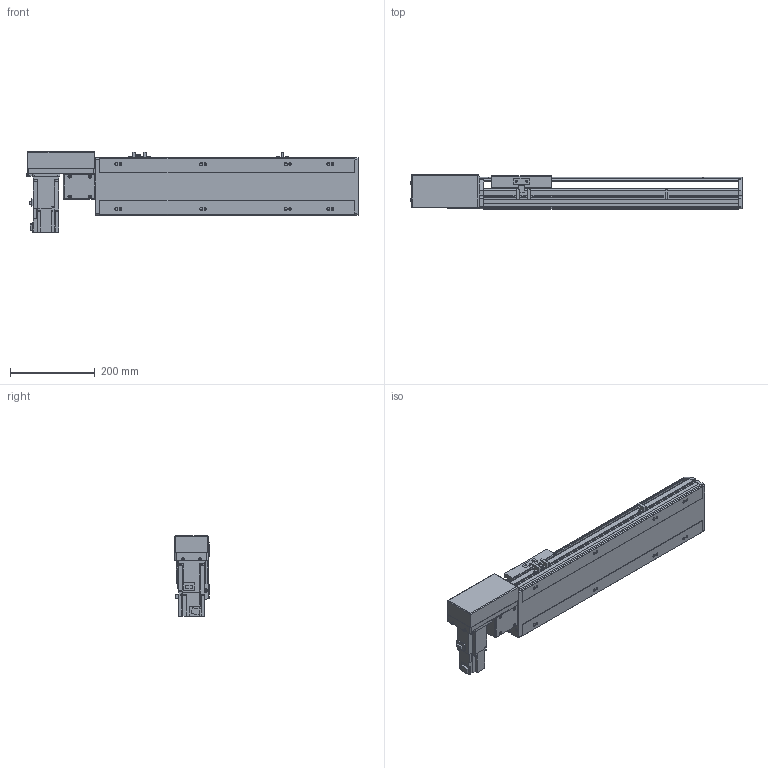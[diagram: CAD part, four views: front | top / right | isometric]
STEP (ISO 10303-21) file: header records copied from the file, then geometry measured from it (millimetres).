
FILE_DESCRIPTION(/* description */ ('STEP AP214'),/* implementation_level */ '2;1');
FILE_NAME(/* name */ 'PBS140-P40-S350-R-T40-C1-N(0)',/* time_stamp */ '2022-06-06T03:26:47+02:00',/* author */ ('License CC BY-ND 4.0'),/* organization */ ('CADENAS'),/* preprocessor_version */ 'ST-DEVELOPER v18.102',/* originating_system */ 'PARTsolutions',/* authorisation */ ' ');
FILE_SCHEMA (('AUTOMOTIVE_DESIGN {1 0 10303 214 3 1 1}'));
Length unit declared in the file: millimetre
Products named in the file (7): PBS140-P40-S350-R-T40-C1-N(0); PBS140_sensor; PBS140_plant; PBS140_sliser; T40-p1; PBS140T-R_motors; PBS140-S350()_body
Assembly tree (8 placements, depth 2):
  PBS140-P40-S350-R-T40-C1-N(0)
    PBS140_sensor  x3
    PBS140_plant
    PBS140_sliser
    T40-p1
    PBS140T-R_motors
    PBS140-S350()_body
Bounding box: 783 x 80.5 x 189.7 mm (x, y, z)
Volume: 3787770.4 mm3; surface area: 689097.4 mm2
Topology: 8 solids, 8 shells, 1011 faces, 2676 edges, 1749 vertices
Faces by surface type: plane 668, cylinder 299, cone 34, sphere 8, torus 2
Full cylindrical faces by diameter (mm): 3.242 x4, 4 x2, 4.134 x4, 4.4 x8, 4.5 x2, 4.8 x4, 4.917 x16, 5.5 x7, 6 x2, 7 x10, 7.5 x8, 8 x12, 8.5 x4, 10.5 x8, 14 x1, 30 x2, 50 x2
Entity records: 28813 total; most frequent: CARTESIAN_POINT 5217, DIRECTION 4917, ORIENTED_EDGE 4672, EDGE_CURVE 2336, AXIS2_PLACEMENT_3D 1687, VERTEX_POINT 1605, LINE 1543, VECTOR 1543
